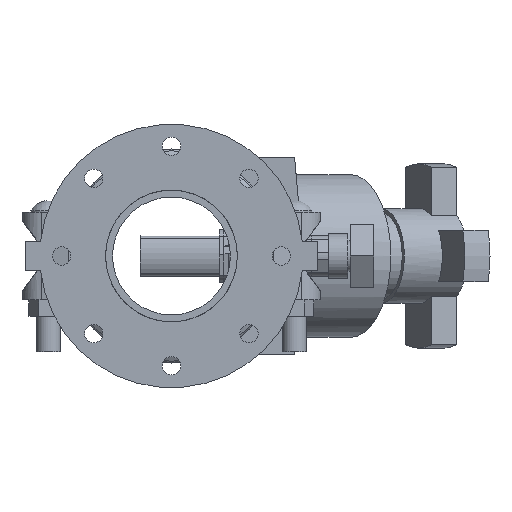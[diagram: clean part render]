
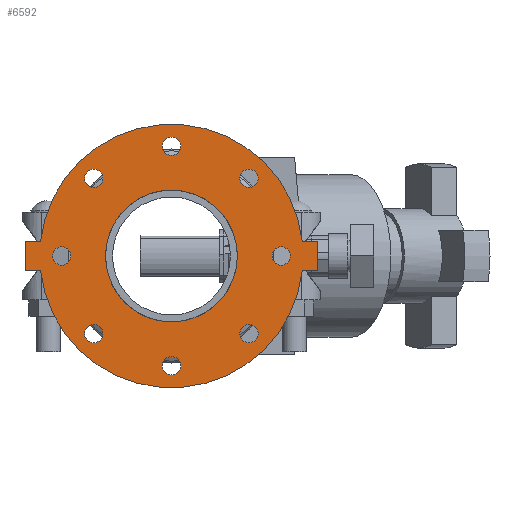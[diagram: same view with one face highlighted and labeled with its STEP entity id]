
A CAD part, front view. The second image highlights one B-rep face of the part: STEP entity #6592.
In plain terms, the highlighted planar face has unit normal (0, -1, 0) as drawn and (0, 0, 1) by its records, which use the part's own axes.
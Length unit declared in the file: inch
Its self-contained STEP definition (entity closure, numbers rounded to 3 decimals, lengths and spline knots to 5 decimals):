
#179=FACE_BOUND('',#841,.T.);
#180=FACE_BOUND('',#842,.T.);
#181=FACE_BOUND('',#843,.T.);
#182=FACE_BOUND('',#844,.T.);
#183=FACE_BOUND('',#845,.T.);
#184=FACE_BOUND('',#846,.T.);
#185=FACE_BOUND('',#847,.T.);
#186=FACE_BOUND('',#848,.T.);
#187=FACE_BOUND('',#849,.T.);
#253=PLANE('',#7173);
#473=FACE_OUTER_BOUND('',#840,.T.);
#840=EDGE_LOOP('',(#4286,#4287,#4288,#4289,#4290,#4291,#4292,#4293));
#841=EDGE_LOOP('',(#4294));
#842=EDGE_LOOP('',(#4295));
#843=EDGE_LOOP('',(#4296));
#844=EDGE_LOOP('',(#4297));
#845=EDGE_LOOP('',(#4298));
#846=EDGE_LOOP('',(#4299));
#847=EDGE_LOOP('',(#4300));
#848=EDGE_LOOP('',(#4301));
#849=EDGE_LOOP('',(#4302,#4303));
#1267=LINE('',#10068,#1762);
#1268=LINE('',#10071,#1763);
#1271=LINE('',#10076,#1766);
#1272=LINE('',#10079,#1767);
#1274=LINE('',#10082,#1769);
#1275=LINE('',#10084,#1770);
#1762=VECTOR('',#8011,0.3937);
#1763=VECTOR('',#8014,0.3937);
#1766=VECTOR('',#8019,0.3937);
#1767=VECTOR('',#8022,0.3937);
#1769=VECTOR('',#8026,0.3937);
#1770=VECTOR('',#8029,0.3937);
#2237=CIRCLE('',#7132,0.3125);
#2239=CIRCLE('',#7135,0.3125);
#2241=CIRCLE('',#7138,0.3125);
#2243=CIRCLE('',#7141,0.3125);
#2245=CIRCLE('',#7144,0.3125);
#2247=CIRCLE('',#7147,0.3125);
#2249=CIRCLE('',#7150,0.3125);
#2251=CIRCLE('',#7153,0.3125);
#2257=CIRCLE('',#7161,4.5);
#2258=CIRCLE('',#7163,2.25);
#2259=CIRCLE('',#7164,2.25);
#2260=CIRCLE('',#7166,4.5);
#2616=VERTEX_POINT('',#9979);
#2618=VERTEX_POINT('',#9985);
#2620=VERTEX_POINT('',#9991);
#2622=VERTEX_POINT('',#9997);
#2624=VERTEX_POINT('',#10003);
#2626=VERTEX_POINT('',#10009);
#2628=VERTEX_POINT('',#10015);
#2630=VERTEX_POINT('',#10021);
#2642=VERTEX_POINT('',#10048);
#2643=VERTEX_POINT('',#10050);
#2644=VERTEX_POINT('',#10054);
#2645=VERTEX_POINT('',#10056);
#2646=VERTEX_POINT('',#10060);
#2647=VERTEX_POINT('',#10062);
#2648=VERTEX_POINT('',#10066);
#2649=VERTEX_POINT('',#10070);
#2650=VERTEX_POINT('',#10074);
#2651=VERTEX_POINT('',#10078);
#3255=EDGE_CURVE('',#2616,#2616,#2237,.T.);
#3258=EDGE_CURVE('',#2618,#2618,#2239,.T.);
#3261=EDGE_CURVE('',#2620,#2620,#2241,.T.);
#3264=EDGE_CURVE('',#2622,#2622,#2243,.T.);
#3267=EDGE_CURVE('',#2624,#2624,#2245,.T.);
#3270=EDGE_CURVE('',#2626,#2626,#2247,.T.);
#3273=EDGE_CURVE('',#2628,#2628,#2249,.T.);
#3276=EDGE_CURVE('',#2630,#2630,#2251,.T.);
#3291=EDGE_CURVE('',#2642,#2643,#2257,.T.);
#3293=EDGE_CURVE('',#2645,#2644,#2258,.T.);
#3294=EDGE_CURVE('',#2644,#2645,#2259,.T.);
#3296=EDGE_CURVE('',#2647,#2646,#2260,.T.);
#3299=EDGE_CURVE('',#2643,#2648,#1267,.T.);
#3300=EDGE_CURVE('',#2649,#2647,#1268,.T.);
#3303=EDGE_CURVE('',#2646,#2650,#1271,.T.);
#3304=EDGE_CURVE('',#2651,#2642,#1272,.T.);
#3306=EDGE_CURVE('',#2650,#2651,#1274,.T.);
#3307=EDGE_CURVE('',#2648,#2649,#1275,.T.);
#4286=ORIENTED_EDGE('',*,*,#3303,.T.);
#4287=ORIENTED_EDGE('',*,*,#3306,.T.);
#4288=ORIENTED_EDGE('',*,*,#3304,.T.);
#4289=ORIENTED_EDGE('',*,*,#3291,.T.);
#4290=ORIENTED_EDGE('',*,*,#3299,.T.);
#4291=ORIENTED_EDGE('',*,*,#3307,.T.);
#4292=ORIENTED_EDGE('',*,*,#3300,.T.);
#4293=ORIENTED_EDGE('',*,*,#3296,.T.);
#4294=ORIENTED_EDGE('',*,*,#3255,.T.);
#4295=ORIENTED_EDGE('',*,*,#3258,.T.);
#4296=ORIENTED_EDGE('',*,*,#3261,.T.);
#4297=ORIENTED_EDGE('',*,*,#3264,.T.);
#4298=ORIENTED_EDGE('',*,*,#3267,.T.);
#4299=ORIENTED_EDGE('',*,*,#3270,.T.);
#4300=ORIENTED_EDGE('',*,*,#3273,.T.);
#4301=ORIENTED_EDGE('',*,*,#3276,.T.);
#4302=ORIENTED_EDGE('',*,*,#3293,.T.);
#4303=ORIENTED_EDGE('',*,*,#3294,.T.);
#6592=ADVANCED_FACE('',(#473,#179,#180,#181,#182,#183,#184,#185,#186,#187),
#253,.T.);
#7132=AXIS2_PLACEMENT_3D('',#9980,#7919,#7920);
#7135=AXIS2_PLACEMENT_3D('',#9986,#7926,#7927);
#7138=AXIS2_PLACEMENT_3D('',#9992,#7933,#7934);
#7141=AXIS2_PLACEMENT_3D('',#9998,#7940,#7941);
#7144=AXIS2_PLACEMENT_3D('',#10004,#7947,#7948);
#7147=AXIS2_PLACEMENT_3D('',#10010,#7954,#7955);
#7150=AXIS2_PLACEMENT_3D('',#10016,#7961,#7962);
#7153=AXIS2_PLACEMENT_3D('',#10022,#7968,#7969);
#7161=AXIS2_PLACEMENT_3D('',#10052,#7993,#7994);
#7163=AXIS2_PLACEMENT_3D('',#10057,#7998,#7999);
#7164=AXIS2_PLACEMENT_3D('',#10058,#8000,#8001);
#7166=AXIS2_PLACEMENT_3D('',#10063,#8005,#8006);
#7173=AXIS2_PLACEMENT_3D('',#10085,#8030,#8031);
#7919=DIRECTION('center_axis',(0.,0.,-1.));
#7920=DIRECTION('ref_axis',(-0.707,0.707,0.));
#7926=DIRECTION('center_axis',(0.,0.,-1.));
#7927=DIRECTION('ref_axis',(0.,1.,0.));
#7933=DIRECTION('center_axis',(0.,0.,-1.));
#7934=DIRECTION('ref_axis',(0.707,0.707,0.));
#7940=DIRECTION('center_axis',(0.,0.,-1.));
#7941=DIRECTION('ref_axis',(1.,0.,0.));
#7947=DIRECTION('center_axis',(0.,0.,-1.));
#7948=DIRECTION('ref_axis',(0.707,-0.707,0.));
#7954=DIRECTION('center_axis',(0.,0.,-1.));
#7955=DIRECTION('ref_axis',(0.,-1.,0.));
#7961=DIRECTION('center_axis',(0.,0.,-1.));
#7962=DIRECTION('ref_axis',(-0.707,-0.707,0.));
#7968=DIRECTION('center_axis',(0.,0.,-1.));
#7969=DIRECTION('ref_axis',(-1.,0.,0.));
#7993=DIRECTION('center_axis',(0.,0.,1.));
#7994=DIRECTION('ref_axis',(-1.,0.,0.));
#7998=DIRECTION('center_axis',(0.,0.,-1.));
#7999=DIRECTION('ref_axis',(-1.,0.,0.));
#8000=DIRECTION('center_axis',(0.,0.,-1.));
#8001=DIRECTION('ref_axis',(-1.,0.,0.));
#8005=DIRECTION('center_axis',(0.,0.,1.));
#8006=DIRECTION('ref_axis',(-1.,0.,0.));
#8011=DIRECTION('',(0.,1.,0.));
#8014=DIRECTION('',(0.,-1.,0.));
#8019=DIRECTION('',(0.,-1.,0.));
#8022=DIRECTION('',(0.,1.,0.));
#8026=DIRECTION('',(1.,0.,0.));
#8029=DIRECTION('',(-1.,0.,0.));
#8030=DIRECTION('center_axis',(0.,0.,1.));
#8031=DIRECTION('ref_axis',(1.,0.,0.));
#9979=CARTESIAN_POINT('',(-2.43068,2.43068,0.5));
#9980=CARTESIAN_POINT('Origin',(-2.65165,2.65165,0.5));
#9985=CARTESIAN_POINT('',(0.,3.4375,0.5));
#9986=CARTESIAN_POINT('Origin',(0.,3.75,0.5));
#9991=CARTESIAN_POINT('',(2.43068,2.43068,0.5));
#9992=CARTESIAN_POINT('Origin',(2.65165,2.65165,0.5));
#9997=CARTESIAN_POINT('',(3.4375,0.,0.5));
#9998=CARTESIAN_POINT('Origin',(3.75,0.,0.5));
#10003=CARTESIAN_POINT('',(2.43068,-2.43068,0.5));
#10004=CARTESIAN_POINT('Origin',(2.65165,-2.65165,0.5));
#10009=CARTESIAN_POINT('',(0.,-3.4375,0.5));
#10010=CARTESIAN_POINT('Origin',(0.,-3.75,0.5));
#10015=CARTESIAN_POINT('',(-2.43068,-2.43068,0.5));
#10016=CARTESIAN_POINT('Origin',(-2.65165,-2.65165,0.5));
#10021=CARTESIAN_POINT('',(-3.4375,0.,0.5));
#10022=CARTESIAN_POINT('Origin',(-3.75,0.,0.5));
#10048=CARTESIAN_POINT('',(0.5,-4.47214,0.5));
#10050=CARTESIAN_POINT('',(0.5,4.47214,0.5));
#10052=CARTESIAN_POINT('Origin',(0.,0.,0.5));
#10054=CARTESIAN_POINT('',(2.25,0.,0.5));
#10056=CARTESIAN_POINT('',(0.5,2.19374,0.5));
#10057=CARTESIAN_POINT('Origin',(0.,0.,0.5));
#10058=CARTESIAN_POINT('Origin',(0.,0.,0.5));
#10060=CARTESIAN_POINT('',(-0.5,-4.47214,0.5));
#10062=CARTESIAN_POINT('',(-0.5,4.47214,0.5));
#10063=CARTESIAN_POINT('Origin',(0.,0.,0.5));
#10066=CARTESIAN_POINT('',(0.5,5.,0.5));
#10068=CARTESIAN_POINT('',(0.5,5.,0.5));
#10070=CARTESIAN_POINT('',(-0.5,5.,0.5));
#10071=CARTESIAN_POINT('',(-0.5,-5.,0.5));
#10074=CARTESIAN_POINT('',(-0.5,-5.,0.5));
#10076=CARTESIAN_POINT('',(-0.5,-5.,0.5));
#10078=CARTESIAN_POINT('',(0.5,-5.,0.5));
#10079=CARTESIAN_POINT('',(0.5,5.,0.5));
#10082=CARTESIAN_POINT('',(0.5,-5.,0.5));
#10084=CARTESIAN_POINT('',(-0.5,5.,0.5));
#10085=CARTESIAN_POINT('Origin',(0.,0.,0.5));
